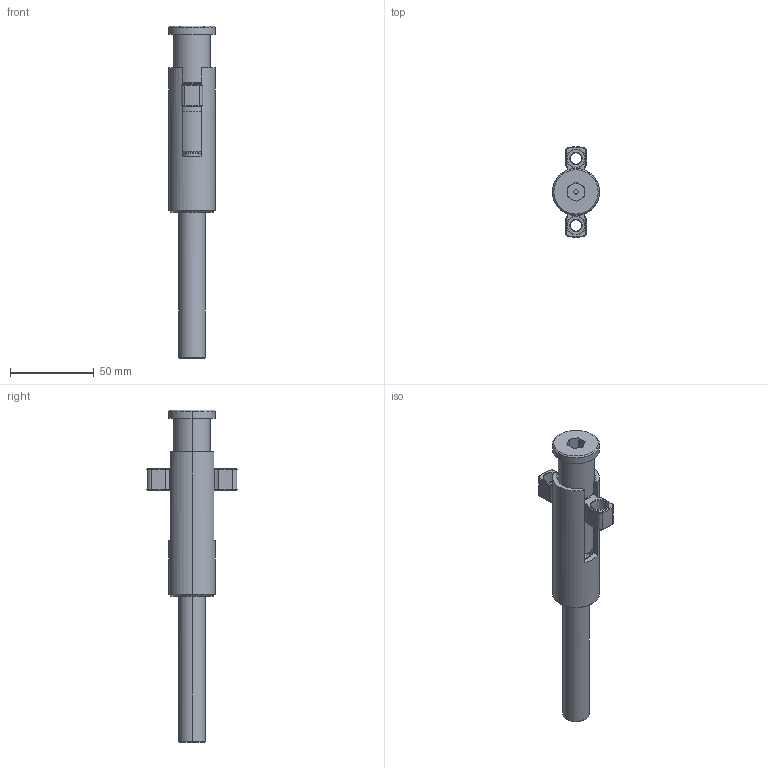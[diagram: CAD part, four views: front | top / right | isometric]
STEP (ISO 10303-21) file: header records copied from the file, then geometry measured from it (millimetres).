
FILE_DESCRIPTION (( 'STEP AP214' ), '1' );
FILE_NAME ('DKL2811.STEP', '2013-08-26T10:29:54', ( '' ), ( '' ), 'SwSTEP 2.0', 'SolidWorks 2013', '' );
FILE_SCHEMA (( 'AUTOMOTIVE_DESIGN' ));
Length unit declared in the file: millimetre
Products named in the file (9): DKL2011; DKL2071; DKL2081; DKL2041; DKL2021; DKL2051; DKL2062; DKL2031; DKL2811
Assembly tree (11 placements, depth 2):
  DKL2811
    DKL2031
    DKL2062  x4
    DKL2051
    DKL2021
    DKL2041
    DKL2081
    DKL2071
    DKL2011
Bounding box: 28 x 53.93 x 198 mm (x, y, z)
Volume: 70153.4 mm3; surface area: 35622.8 mm2
Topology: 11 solids, 11 shells, 516 faces, 1218 edges, 736 vertices
Faces by surface type: plane 164, cone 141, cylinder 139, torus 54, bspline 18
Entity records: 17320 total; most frequent: CARTESIAN_POINT 6801, DIRECTION 2198, ORIENTED_EDGE 2052, EDGE_CURVE 1026, AXIS2_PLACEMENT_3D 883, VERTEX_POINT 625, EDGE_LOOP 483, CIRCLE 449
